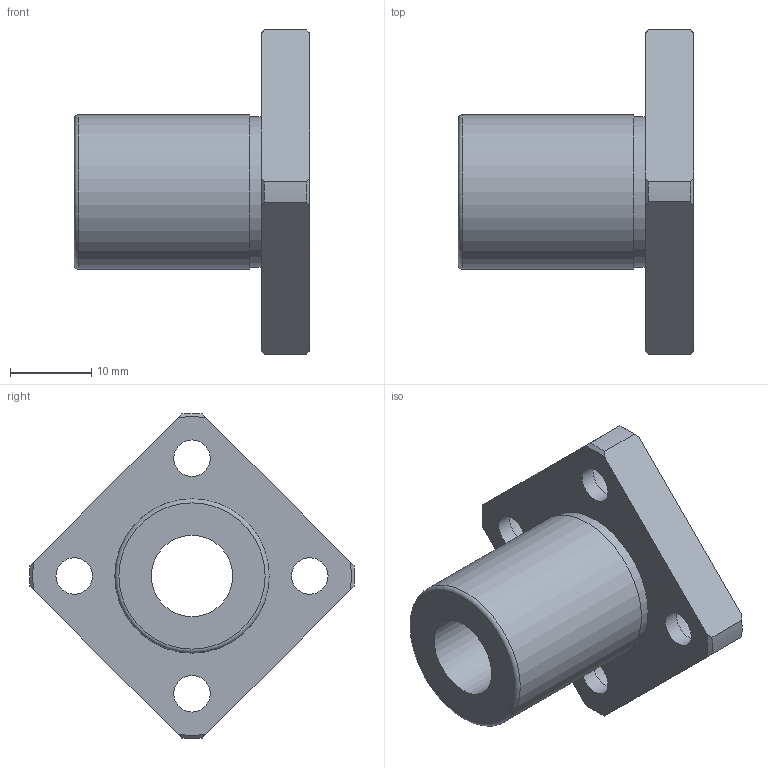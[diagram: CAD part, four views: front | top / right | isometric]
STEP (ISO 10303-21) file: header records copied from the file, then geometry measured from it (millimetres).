
FILE_DESCRIPTION(('STEP AP203'),'1');
FILE_NAME('//192.168.1.1/share/s-4 技術開発/s-4-4_CAD/s-4-4-3_見直し済み/002 修正済み/NF-V/NF-10TVUU.step','2022-03-08T06:45:03',(' '),(' '),'Spatial InterOp 3D',' ',' ');
FILE_SCHEMA(('CONFIG_CONTROL_DESIGN'));
Length unit declared in the file: millimetre
Products named in the file (1): 1
Bounding box: 29 x 39.99 x 39.99 mm (x, y, z)
Volume: 8736.5 mm3; surface area: 4984.8 mm2
Topology: 1 solids, 1 shells, 36 faces, 89 edges, 61 vertices
Faces by surface type: cylinder 15, plane 12, cone 8, torus 1
Full cylindrical faces by diameter (mm): 4.5 x4, 7.5 x4, 10 x1, 18.5 x1, 19 x1
Entity records: 1026 total; most frequent: CARTESIAN_POINT 195, DIRECTION 168, ORIENTED_EDGE 142, AXIS2_PLACEMENT_3D 76, EDGE_CURVE 71, EDGE_LOOP 64, VERTEX_POINT 55, FACE_OUTER_BOUND 48
